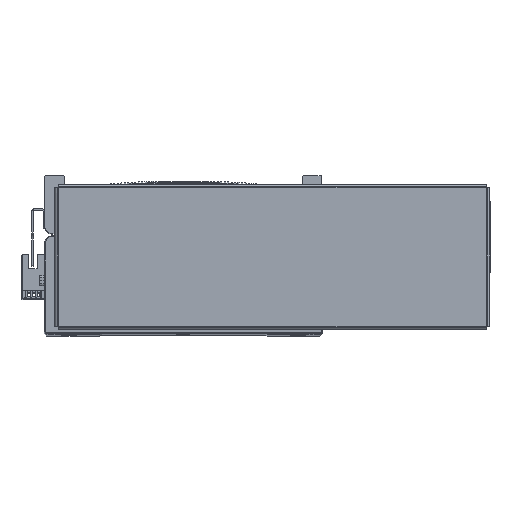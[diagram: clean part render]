
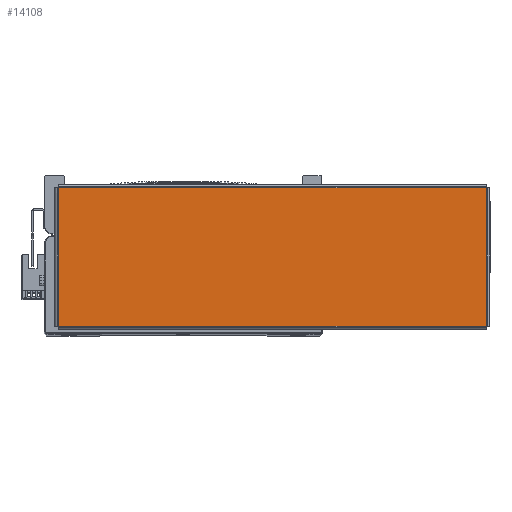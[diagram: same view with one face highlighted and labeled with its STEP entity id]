
A CAD part, top view. The second image highlights one B-rep face of the part: STEP entity #14108.
In plain terms, the highlighted planar face has unit normal (0, 0, 1) as drawn and (0, -1, 0) by its records, which use the part's own axes.
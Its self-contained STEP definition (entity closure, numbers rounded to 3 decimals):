
#14108 = ADVANCED_FACE ( 'NONE', ( #50749 ), #34301, .F. ) ;
#29608 = CARTESIAN_POINT ( 'NONE',  ( 130.863, -1.5, 42.263 ) ) ;
#29632 = CARTESIAN_POINT ( 'NONE',  ( -130.863, -1.5, -42.263 ) ) ;
#29658 = CARTESIAN_POINT ( 'NONE',  ( -130.863, -1.5, 42.263 ) ) ;
#29713 = CARTESIAN_POINT ( 'NONE',  ( 130.863, -1.5, -42.263 ) ) ;
#34260 = DIRECTION ( 'NONE',  ( 0., 0., 1. ) ) ;
#34277 = DIRECTION ( 'NONE',  ( 0., 1., 0. ) ) ;
#34282 = CARTESIAN_POINT ( 'NONE',  ( 0., -1.5, 0. ) ) ;
#34301 = PLANE ( 'NONE',  #35714 ) ;
#35714 = AXIS2_PLACEMENT_3D ( 'NONE', #34282, #34277, #34260 ) ;
#41174 = ORIENTED_EDGE ( 'NONE', *, *, #66199, .T. ) ;
#41215 = ORIENTED_EDGE ( 'NONE', *, *, #66184, .T. ) ;
#41227 = ORIENTED_EDGE ( 'NONE', *, *, #66203, .T. ) ;
#41232 = ORIENTED_EDGE ( 'NONE', *, *, #66188, .T. ) ;
#48328 = CARTESIAN_POINT ( 'NONE',  ( -130.863, -1.5, 42.293 ) ) ;
#48330 = DIRECTION ( 'NONE',  ( 0., 0., -1. ) ) ;
#48345 = CARTESIAN_POINT ( 'NONE',  ( -130.893, -1.5, -42.263 ) ) ;
#48367 = DIRECTION ( 'NONE',  ( 1., 0., 0. ) ) ;
#48375 = DIRECTION ( 'NONE',  ( -1., 0., 0. ) ) ;
#48381 = DIRECTION ( 'NONE',  ( 0., 0., 1. ) ) ;
#48384 = CARTESIAN_POINT ( 'NONE',  ( 130.893, -1.5, 42.263 ) ) ;
#48403 = CARTESIAN_POINT ( 'NONE',  ( 130.863, -1.5, -42.293 ) ) ;
#50282 = EDGE_LOOP ( 'NONE', ( #41227, #41174, #41232, #41215 ) ) ;
#50749 = FACE_OUTER_BOUND ( 'NONE', #50282, .T. ) ;
#54652 = VERTEX_POINT ( 'NONE', #29658 ) ;
#54660 = VERTEX_POINT ( 'NONE', #29632 ) ;
#54676 = VERTEX_POINT ( 'NONE', #29608 ) ;
#54706 = VERTEX_POINT ( 'NONE', #29713 ) ;
#57091 = LINE ( 'NONE', #48328, #57094 ) ;
#57094 = VECTOR ( 'NONE', #48330, 1000. ) ;
#57102 = VECTOR ( 'NONE', #48367, 1000. ) ;
#57127 = LINE ( 'NONE', #48345, #57102 ) ;
#57176 = VECTOR ( 'NONE', #48375, 1000. ) ;
#57179 = LINE ( 'NONE', #48384, #57176 ) ;
#57184 = LINE ( 'NONE', #48403, #57185 ) ;
#57185 = VECTOR ( 'NONE', #48381, 1000. ) ;
#66184 = EDGE_CURVE ( 'NONE', #54660, #54706, #57127, .T. ) ;
#66188 = EDGE_CURVE ( 'NONE', #54652, #54660, #57091, .T. ) ;
#66199 = EDGE_CURVE ( 'NONE', #54676, #54652, #57179, .T. ) ;
#66203 = EDGE_CURVE ( 'NONE', #54706, #54676, #57184, .T. ) ;
